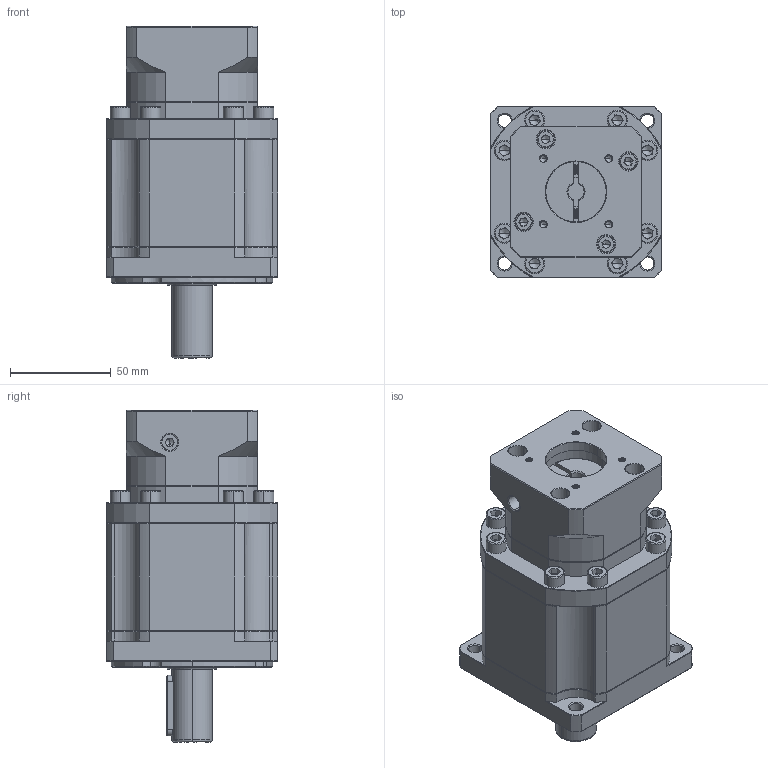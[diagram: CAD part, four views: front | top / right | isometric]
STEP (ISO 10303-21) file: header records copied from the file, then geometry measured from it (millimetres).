
FILE_DESCRIPTION (( 'STEP AP214' ), '1' );
FILE_NAME ('ZB090-D20-L3-P2-8-30-46-M4.step', '2023-08-18T13:35:29', ( '' ), ( '' ), 'SwSTEP 2.0', 'SolidWorks 2016', '' );
FILE_SCHEMA (( 'AUTOMOTIVE_DESIGN' ));
Length unit declared in the file: millimetre
Products named in the file (1): ZB090-D20-L3-P2-8-30-46-M4
Bounding box: 85 x 85 x 164.5 mm (x, y, z)
Volume: 671473.8 mm3; surface area: 82831.8 mm2
Topology: 6 solids, 6 shells, 2351 faces, 6251 edges, 3996 vertices
Faces by surface type: plane 1185, bspline 426, cylinder 394, cone 324, torus 22
Entity records: 123142 total; most frequent: CARTESIAN_POINT 42166, ORIENTED_EDGE 12410, DIRECTION 9899, EDGE_CURVE 6205, VERTEX_POINT 3996, VECTOR 3927, LINE 3927, AXIS2_PLACEMENT_3D 2986
